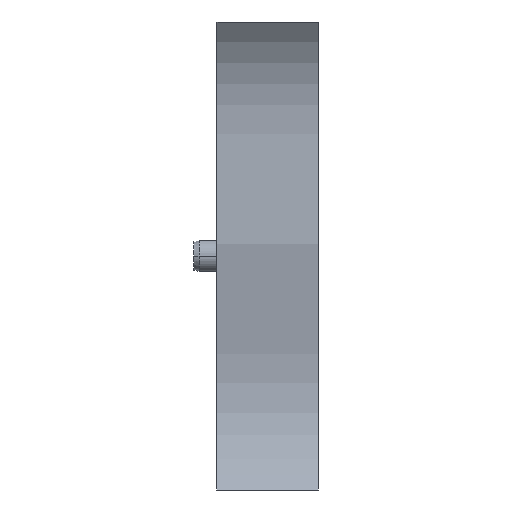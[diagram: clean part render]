
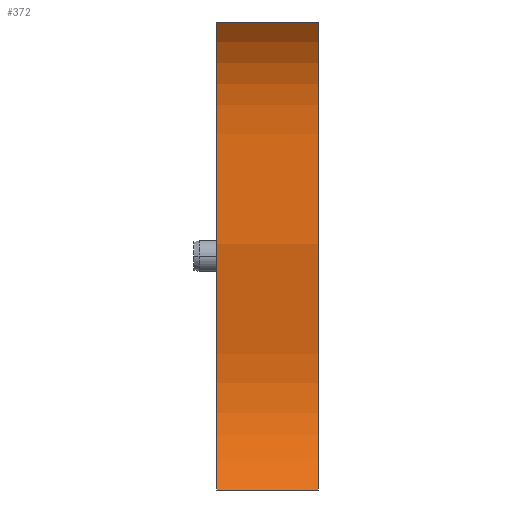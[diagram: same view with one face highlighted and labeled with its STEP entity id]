
A CAD part, left-side view. The second image highlights one B-rep face of the part: STEP entity #372.
In plain terms, the highlighted free-form (B-spline) face has degree [3, 1] with [5, 2] control points.
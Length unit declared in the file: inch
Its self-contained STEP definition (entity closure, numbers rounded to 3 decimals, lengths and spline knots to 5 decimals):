
#51 = EDGE_CURVE ( 'NONE', #857, #305, #873, .T. ) ;
#52 = VERTEX_POINT ( 'NONE', #870 ) ;
#169 = CARTESIAN_POINT ( 'NONE',  ( -2.95276, 0., 0.59055 ) ) ;
#229 = LINE ( 'NONE', #499, #962 ) ;
#232 = CARTESIAN_POINT ( 'NONE',  ( -2.95276, 0., -0.59055 ) ) ;
#248 = CARTESIAN_POINT ( 'NONE',  ( -2.95276, 0.25591, -0.59055 ) ) ;
#251 = CARTESIAN_POINT ( 'NONE',  ( -2.95276, 0., 0.59055 ) ) ;
#256 = CARTESIAN_POINT ( 'NONE',  ( -2.77241, 0., -0.38207 ) ) ;
#283 = VECTOR ( 'NONE', #447, 39.37008 ) ;
#292 = EDGE_LOOP ( 'NONE', ( #1051, #642, #906, #657 ) ) ;
#305 = VERTEX_POINT ( 'NONE', #399 ) ;
#317 = CARTESIAN_POINT ( 'NONE',  ( -2.95276, 0.25591, 0.59055 ) ) ;
#327 = CARTESIAN_POINT ( 'NONE',  ( -2.95276, 0.25591, -0.59055 ) ) ;
#372 = ADVANCED_FACE ( 'Defeatured_0_8', ( #410 ), #756, .F. ) ;
#399 = CARTESIAN_POINT ( 'NONE',  ( -2.95276, 0., 0.59055 ) ) ;
#410 = FACE_OUTER_BOUND ( 'NONE', #292, .T. ) ;
#411 = CARTESIAN_POINT ( 'NONE',  ( -2.77241, 0.25591, -0.38207 ) ) ;
#447 = DIRECTION ( 'NONE',  ( 0., -1., 0. ) ) ;
#499 = CARTESIAN_POINT ( 'NONE',  ( -2.95276, 0.25591, -0.59055 ) ) ;
#571 = DIRECTION ( 'NONE',  ( 0., -1., 0. ) ) ;
#585 = CARTESIAN_POINT ( 'NONE',  ( -2.95276, 0.25591, 0.59055 ) ) ;
#595 = CARTESIAN_POINT ( 'NONE',  ( -2.81161, 0., 0.42022 ) ) ;
#610 = CARTESIAN_POINT ( 'NONE',  ( -2.95276, 0.25591, 0.59055 ) ) ;
#642 = ORIENTED_EDGE ( 'NONE', *, *, #927, .T. ) ;
#646 = CARTESIAN_POINT ( 'NONE',  ( -2.81161, 0., 0.42022 ) ) ;
#657 = ORIENTED_EDGE ( 'NONE', *, *, #51, .F. ) ;
#659 = CARTESIAN_POINT ( 'NONE',  ( -2.77241, 0., -0.38207 ) ) ;
#682 = CARTESIAN_POINT ( 'NONE',  ( -2.97134, 0.25591, 0.01125 ) ) ;
#735 = CARTESIAN_POINT ( 'NONE',  ( -2.97134, 0., 0.01125 ) ) ;
#756 = B_SPLINE_SURFACE_WITH_KNOTS ( 'NONE', 3, 1, ( 
 ( #251, #932 ),
 ( #595, #938 ),
 ( #854, #682 ),
 ( #256, #945 ),
 ( #232, #919 ) ),
 .UNSPECIFIED., .F., .F., .F.,
 ( 4, 1, 4 ),
 ( 2, 2 ),
 ( 0., 0.46737, 1. ),
 ( 0., 1. ),
 .UNSPECIFIED. ) ;
#842 = CARTESIAN_POINT ( 'NONE',  ( -2.97134, 0.25591, 0.01125 ) ) ;
#854 = CARTESIAN_POINT ( 'NONE',  ( -2.97134, 0., 0.01125 ) ) ;
#857 = VERTEX_POINT ( 'NONE', #317 ) ;
#870 = CARTESIAN_POINT ( 'NONE',  ( -2.95276, 0., -0.59055 ) ) ;
#873 = LINE ( 'NONE', #610, #283 ) ;
#906 = ORIENTED_EDGE ( 'NONE', *, *, #996, .F. ) ;
#908 = CARTESIAN_POINT ( 'NONE',  ( -2.95276, 0., -0.59055 ) ) ;
#919 = CARTESIAN_POINT ( 'NONE',  ( -2.95276, 0.25591, -0.59055 ) ) ;
#927 = EDGE_CURVE ( 'NONE', #1030, #52, #229, .T. ) ;
#928 = CARTESIAN_POINT ( 'NONE',  ( -2.81161, 0.25591, 0.42022 ) ) ;
#932 = CARTESIAN_POINT ( 'NONE',  ( -2.95276, 0.25591, 0.59055 ) ) ;
#938 = CARTESIAN_POINT ( 'NONE',  ( -2.81161, 0.25591, 0.42022 ) ) ;
#945 = CARTESIAN_POINT ( 'NONE',  ( -2.77241, 0.25591, -0.38207 ) ) ;
#946 = B_SPLINE_CURVE_WITH_KNOTS ( 'NONE', 3,
 ( #585, #928, #842, #411, #327 ),
 .UNSPECIFIED., .F., .F.,
 ( 4, 1, 4 ),
 ( 0., 0.46737, 1. ),
 .UNSPECIFIED. ) ;
#962 = VECTOR ( 'NONE', #571, 39.37008 ) ;
#983 = B_SPLINE_CURVE_WITH_KNOTS ( 'NONE', 3,
 ( #169, #646, #735, #659, #908 ),
 .UNSPECIFIED., .F., .F.,
 ( 4, 1, 4 ),
 ( 0., 0.46737, 1. ),
 .UNSPECIFIED. ) ;
#996 = EDGE_CURVE ( 'NONE', #305, #52, #983, .T. ) ;
#1030 = VERTEX_POINT ( 'NONE', #248 ) ;
#1051 = ORIENTED_EDGE ( 'NONE', *, *, #1102, .T. ) ;
#1102 = EDGE_CURVE ( 'NONE', #857, #1030, #946, .T. ) ;
